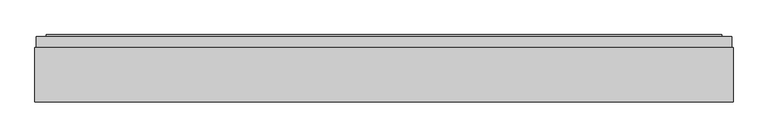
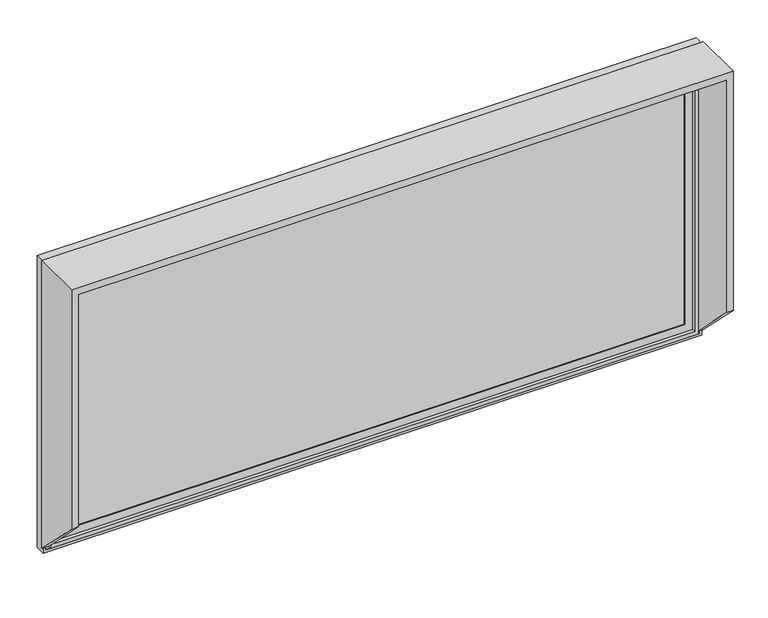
"""IFC4 building model written with IfcOpenShell, lengths in millimetres: plate geometry, SCISSOR PANEL : SCISSOR PANEL."""

from ifc_helpers import new_model, si_unit, frame, origin, place, context, project, spatial, polyline, outline, extrude, faceted_brep, source, transform, mapped, element, save


def plate_da1aebaa(model_context):
    return source(origin(), model_context, "Body", "SolidModel", [
        faceted_brep([(-850.0, 132.5, 800.0), (850.0, 132.5, 800.0), (850.0, 132.5, 17.5), (832.5, 132.5, 17.5), (832.5, 132.5, 782.5), (-832.5, 132.5, 782.5), (-832.5, 132.5, 17.5), (-850.0, 132.5, 17.5), (-832.5, 0.0, 782.5), (-832.5, 0.0, 150.0), (832.5, 0.0, 150.0), (832.5, 0.0, 782.5), (-850.0, 0.0, 150.0), (850.0, 0.0, 150.0), (850.0, 0.0, 800.0), (-850.0, 0.0, 800.0)], [[[0, 1, 2, 3, 4, 5, 6, 7]], [[6, 5, 8, 9]], [[4, 3, 10, 11]], [[9, 12, 7, 6]], [[13, 10, 3, 2]], [[14, 15, 12, 9, 8, 11, 10, 13]], [[15, 0, 7, 12]], [[1, 14, 13, 2]], [[15, 14, 1, 0]], [[11, 8, 5, 4]]]),
        extrude(outline(polyline([(-819.5, 160.5), (819.5, 160.5), (819.5, 135.5), (-819.5, 135.5), (-819.5, 160.5)])), frame((0.0, 0.0, 30.5), z_axis=(0.0, 0.0, 1.0), x_axis=(1.0, 0.0, 0.0)), (0.0, 0.0, 1.0), 739.0),
        faceted_brep([(-802.5, 135.5, 752.5), (-802.5, 132.5, 752.5), (-802.5, 132.5, 47.5), (-802.5, 135.5, 47.5), (-819.5, 160.5, 769.5), (-819.5, 135.5, 769.5), (-819.5, 135.5, 30.5), (-819.5, 160.5, 30.5), (-802.5, 163.5, 752.5), (-802.5, 160.5, 752.5), (-802.5, 160.5, 47.5), (-802.5, 163.5, 47.5), (-822.5, 132.5, 772.5), (-822.5, 163.5, 772.5), (-822.5, 163.5, 27.5), (-822.5, 132.5, 27.5), (802.5, 132.5, 47.5), (802.5, 135.5, 47.5), (819.5, 135.5, 30.5), (819.5, 160.5, 30.5), (802.5, 160.5, 47.5), (802.5, 163.5, 47.5), (822.5, 163.5, 27.5), (822.5, 132.5, 27.5), (802.5, 132.5, 752.5), (802.5, 135.5, 752.5), (819.5, 135.5, 769.5), (819.5, 160.5, 769.5), (802.5, 160.5, 752.5), (802.5, 163.5, 752.5), (822.5, 163.5, 772.5), (822.5, 132.5, 772.5)], [[[0, 1, 2, 3]], [[4, 5, 6, 7]], [[8, 9, 10, 11]], [[12, 13, 14, 15]], [[3, 2, 16, 17]], [[7, 6, 18, 19]], [[11, 10, 20, 21]], [[15, 14, 22, 23]], [[17, 16, 24, 25]], [[19, 18, 26, 27]], [[21, 20, 28, 29]], [[23, 22, 30, 31]], [[15, 23, 31, 12], [1, 24, 16, 2]], [[25, 24, 1, 0]], [[5, 26, 18, 6], [3, 17, 25, 0]], [[27, 26, 5, 4]], [[7, 19, 27, 4], [9, 28, 20, 10]], [[29, 28, 9, 8]], [[13, 30, 22, 14], [11, 21, 29, 8]], [[31, 30, 13, 12]]]),
        faceted_brep([(-846.5, 132.5, 796.5), (-846.5, 158.75, 796.5), (-846.5, 158.75, 3.5), (-846.5, 132.5, 3.5), (-839.5, 150.0, 789.5), (-839.5, 132.5, 789.5), (-839.5, 132.5, 10.5), (-839.5, 150.0, 10.5), (-832.5, 123.75, 782.5), (-832.5, 150.0, 782.5), (-832.5, 150.0, 17.5), (-832.5, 123.75, 17.5), (-822.5, 158.75, 772.5), (-822.5, 123.75, 772.5), (-822.5, 123.75, 27.5), (-822.5, 158.75, 27.5), (846.5, 158.75, 3.5), (846.5, 132.5, 3.5), (839.5, 132.5, 10.5), (839.5, 150.0, 10.5), (832.5, 150.0, 17.5), (832.5, 123.75, 17.5), (822.5, 123.75, 27.5), (822.5, 158.75, 27.5), (846.5, 158.75, 796.5), (846.5, 132.5, 796.5), (839.5, 132.5, 789.5), (839.5, 150.0, 789.5), (832.5, 150.0, 782.5), (832.5, 123.75, 782.5), (822.5, 123.75, 772.5), (822.5, 158.75, 772.5)], [[[0, 1, 2, 3]], [[4, 5, 6, 7]], [[8, 9, 10, 11]], [[12, 13, 14, 15]], [[3, 2, 16, 17]], [[7, 6, 18, 19]], [[11, 10, 20, 21]], [[15, 14, 22, 23]], [[17, 16, 24, 25]], [[19, 18, 26, 27]], [[21, 20, 28, 29]], [[23, 22, 30, 31]], [[25, 24, 1, 0]], [[3, 17, 25, 0], [5, 26, 18, 6]], [[27, 26, 5, 4]], [[7, 19, 27, 4], [9, 28, 20, 10]], [[29, 28, 9, 8]], [[11, 21, 29, 8], [13, 30, 22, 14]], [[31, 30, 13, 12]], [[1, 24, 16, 2], [15, 23, 31, 12]]]),
        extrude(outline(polyline([(789.5, -839.5), (10.5, -839.5), (10.5, 839.5), (789.5, 839.5), (789.5, -839.5)]), holes=[polyline([(782.5, -832.5), (782.5, 832.5), (17.5, 832.5), (17.5, -832.5), (782.5, -832.5)])]), frame((0.0, 132.5, 0.0), z_axis=(0.0, 1.0, 0.0), x_axis=(0.0, 0.0, 1.0)), (0.0, 0.0, 1.0), 17.5),
    ])


if __name__ == "__main__":
    model = new_model("IFC4")
    model_context = context("Model", 3, world=origin())
    ifc_project = project(units=[si_unit("LENGTHUNIT", "METRE", prefix="MILLI")], contexts=[model_context])
    site = spatial("IfcSite", under=ifc_project)
    building = spatial("IfcBuilding", under=site)
    placement = place(None, origin())
    plate_shape = plate_da1aebaa(model_context)
    element("IfcPlate", 1, ObjectType="SCISSOR PANEL : SCISSOR PANEL", at=placement, inside=building, context=model_context, shape_type="MappedRepresentation", body=[
        mapped(plate_shape, transform((0.0, 0.0, 0.0), x_axis=(1.0, 0.0, 0.0), y_axis=(0.0, 1.0, 0.0), z_axis=(0.0, 0.0, 1.0))),
    ])
    save(model, "model.ifc")
